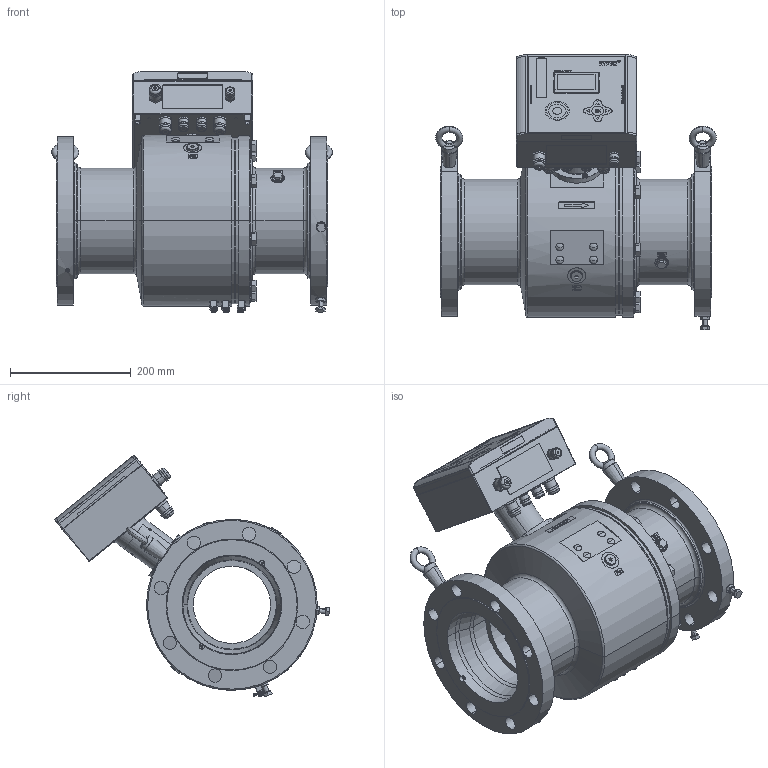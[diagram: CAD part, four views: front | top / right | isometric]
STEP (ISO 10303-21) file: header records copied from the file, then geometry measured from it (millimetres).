
FILE_DESCRIPTION((''),'2;1');
FILE_NAME('STANDARD_SW0001_A150_LI','2023-09-11T08:09:59',('R85801'),(''),'CREO PARAMETRIC BY PTC INC, 2022281','CREO PARAMETRIC BY PTC INC, 2022281','');
FILE_SCHEMA(('AP242_MANAGED_MODEL_BASED_3D_ENGINEERING_MIM_LF { 1 0 10303 442 1 1 4 }'));
Products named in the file (2): STANDARD_SW0001_A150_LI; 10038_S235JRG2
Bounding box: 464.87 x 455.47 x 400.09 mm (x, y, z)
Volume: 11217490.1 mm3; surface area: 1300234.9 mm2
Topology: 12 solids, 22 shells, 4016 faces, 10101 edges, 6414 vertices
Faces by surface type: plane 1920, cylinder 726, extrusion 632, cone 378, torus 284, sphere 40, bspline 36
Entity records: 191474 total; most frequent: CARTESIAN_POINT 31056, ORIENTED_EDGE 20074, DIRECTION 18342, PRESENTATION_STYLE_ASSIGNMENT 14666, STYLED_ITEM 10686, CURVE_STYLE 10673, EDGE_CURVE 10037, VECTOR 6612
